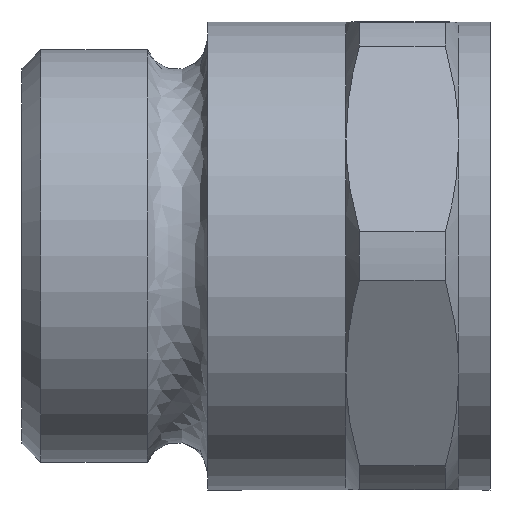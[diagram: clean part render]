
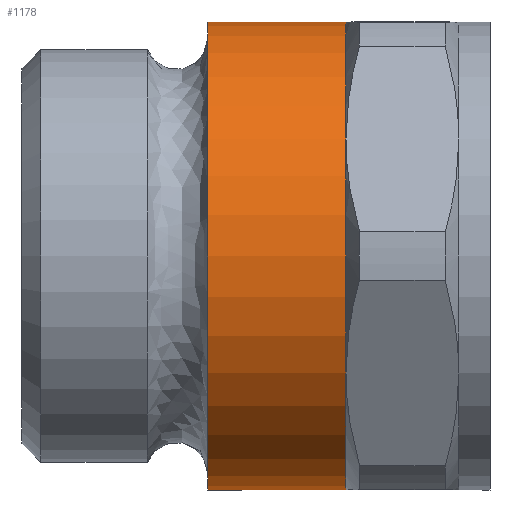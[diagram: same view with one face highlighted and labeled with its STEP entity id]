
A CAD part, front view. The second image highlights one B-rep face of the part: STEP entity #1178.
In plain terms, the highlighted cylindrical face has radius 15 mm (diameter 30 mm), a full revolution.
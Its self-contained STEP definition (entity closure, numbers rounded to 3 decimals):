
#209=CARTESIAN_POINT('',(20.768,12.99,7.5));
#210=VERTEX_POINT('',#209);
#293=CARTESIAN_POINT('',(20.768,0.,15.));
#294=VERTEX_POINT('',#293);
#377=CARTESIAN_POINT('',(20.768,-12.99,7.5));
#378=VERTEX_POINT('',#377);
#461=CARTESIAN_POINT('',(20.768,-12.99,-7.5));
#462=VERTEX_POINT('',#461);
#545=CARTESIAN_POINT('',(20.768,0.,-15.));
#546=VERTEX_POINT('',#545);
#629=CARTESIAN_POINT('',(20.768,12.99,-7.5));
#630=VERTEX_POINT('',#629);
#858=CARTESIAN_POINT('',(20.768,0.0,0.0));
#859=DIRECTION('',(1.0,0.0,0.0));
#860=DIRECTION('',(0.0,1.0,0.0));
#861=AXIS2_PLACEMENT_3D('',#858,#859,#860);
#862=CIRCLE('',#861,15.0);
#863=EDGE_CURVE('',#546,#630,#862,.T.);
#882=CARTESIAN_POINT('',(20.768,0.0,0.0));
#883=DIRECTION('',(1.0,0.0,0.0));
#884=DIRECTION('',(0.0,1.0,0.0));
#885=AXIS2_PLACEMENT_3D('',#882,#883,#884);
#886=CIRCLE('',#885,15.0);
#887=EDGE_CURVE('',#462,#546,#886,.T.);
#906=CARTESIAN_POINT('',(20.768,0.0,0.0));
#907=DIRECTION('',(1.0,0.0,0.0));
#908=DIRECTION('',(0.0,1.0,0.0));
#909=AXIS2_PLACEMENT_3D('',#906,#907,#908);
#910=CIRCLE('',#909,15.0);
#911=EDGE_CURVE('',#378,#462,#910,.T.);
#930=CARTESIAN_POINT('',(20.768,0.0,0.0));
#931=DIRECTION('',(1.0,0.0,0.0));
#932=DIRECTION('',(0.0,1.0,0.0));
#933=AXIS2_PLACEMENT_3D('',#930,#931,#932);
#934=CIRCLE('',#933,15.0);
#935=EDGE_CURVE('',#294,#378,#934,.T.);
#954=CARTESIAN_POINT('',(20.768,0.0,0.0));
#955=DIRECTION('',(1.0,0.0,0.0));
#956=DIRECTION('',(0.0,1.0,0.0));
#957=AXIS2_PLACEMENT_3D('',#954,#955,#956);
#958=CIRCLE('',#957,15.0);
#959=EDGE_CURVE('',#210,#294,#958,.T.);
#1141=CARTESIAN_POINT('',(11.9,15.0,0.0));
#1142=VERTEX_POINT('',#1141);
#1143=CARTESIAN_POINT('',(11.9,0.0,0.0));
#1144=DIRECTION('',(1.0,0.0,0.0));
#1145=DIRECTION('',(0.0,1.0,0.0));
#1146=AXIS2_PLACEMENT_3D('',#1143,#1144,#1145);
#1147=CIRCLE('',#1146,15.0);
#1148=EDGE_CURVE('',#1142,#1142,#1147,.T.);
#1156=CARTESIAN_POINT('',(16.334,0.0,0.0));
#1157=DIRECTION('',(1.0,0.0,0.0));
#1158=DIRECTION('',(0.0,1.0,0.0));
#1159=AXIS2_PLACEMENT_3D('',#1156,#1157,#1158);
#1160=CYLINDRICAL_SURFACE('',#1159,15.0);
#1161=CARTESIAN_POINT('',(20.768,0.0,0.0));
#1162=DIRECTION('',(1.0,0.0,0.0));
#1163=DIRECTION('',(0.0,1.0,0.0));
#1164=AXIS2_PLACEMENT_3D('',#1161,#1162,#1163);
#1165=CIRCLE('',#1164,15.0);
#1166=EDGE_CURVE('',#630,#210,#1165,.T.);
#1167=ORIENTED_EDGE('',*,*,#1166,.F.);
#1168=ORIENTED_EDGE('',*,*,#863,.F.);
#1169=ORIENTED_EDGE('',*,*,#887,.F.);
#1170=ORIENTED_EDGE('',*,*,#911,.F.);
#1171=ORIENTED_EDGE('',*,*,#935,.F.);
#1172=ORIENTED_EDGE('',*,*,#959,.F.);
#1173=EDGE_LOOP('',(#1167,#1168,#1169,#1170,#1171,#1172));
#1174=FACE_OUTER_BOUND('',#1173,.T.);
#1175=ORIENTED_EDGE('',*,*,#1148,.T.);
#1176=EDGE_LOOP('',(#1175));
#1177=FACE_BOUND('',#1176,.T.);
#1178=ADVANCED_FACE('',(#1174,#1177),#1160,.T.);
